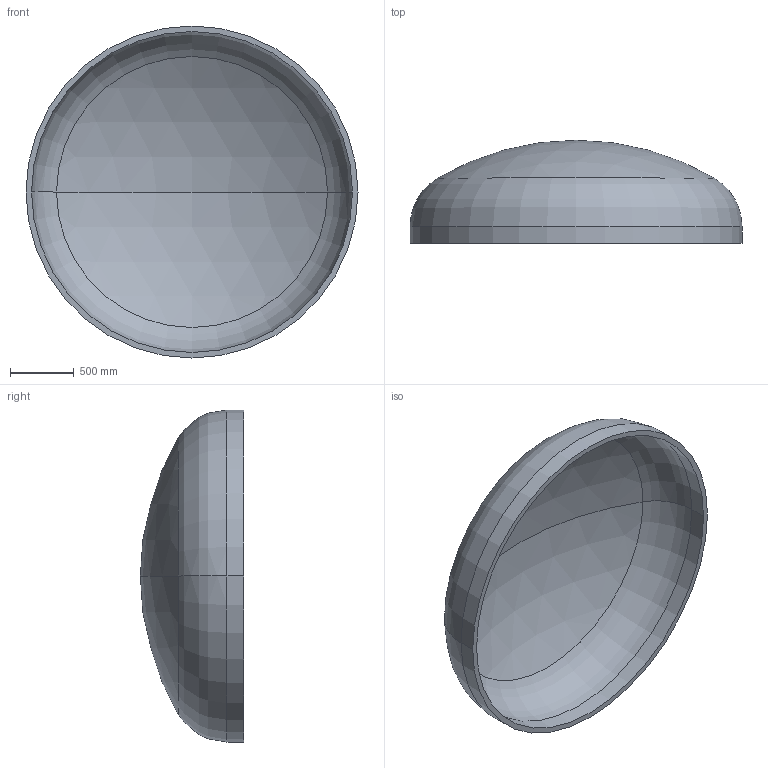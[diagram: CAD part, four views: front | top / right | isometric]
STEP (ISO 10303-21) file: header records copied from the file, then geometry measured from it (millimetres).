
FILE_DESCRIPTION (( 'STEP AP203' ), '1' );
FILE_NAME ('DIN 28013 Korbbogenform_-_Boden DIN 28013 - 2600 x 130 - I - s=43.step', '2016-07-01T16:12:08', ( '' ), ( '' ), 'SwSTEP 2.0', 'SolidWorks 2013', '' );
FILE_SCHEMA (( 'CONFIG_CONTROL_DESIGN' ));
Length unit declared in the file: millimetre
Products named in the file (1): DIN 28013 Korbbogenform_-_Boden DIN 28013 - 2600 x 130 - I - s=43
Bounding box: 2600 x 808.03 x 2600 mm (x, y, z)
Volume: 354210019.7 mm3; surface area: 16824172.9 mm2
Topology: 1 solids, 1 shells, 13 faces, 24 edges, 14 vertices
Faces by surface type: torus 4, cylinder 4, sphere 4, plane 1
Entity records: 407 total; most frequent: DIRECTION 72, CARTESIAN_POINT 52, ORIENTED_EDGE 48, AXIS2_PLACEMENT_3D 34, EDGE_CURVE 24, CIRCLE 20, VERTEX_POINT 14, EDGE_LOOP 14
